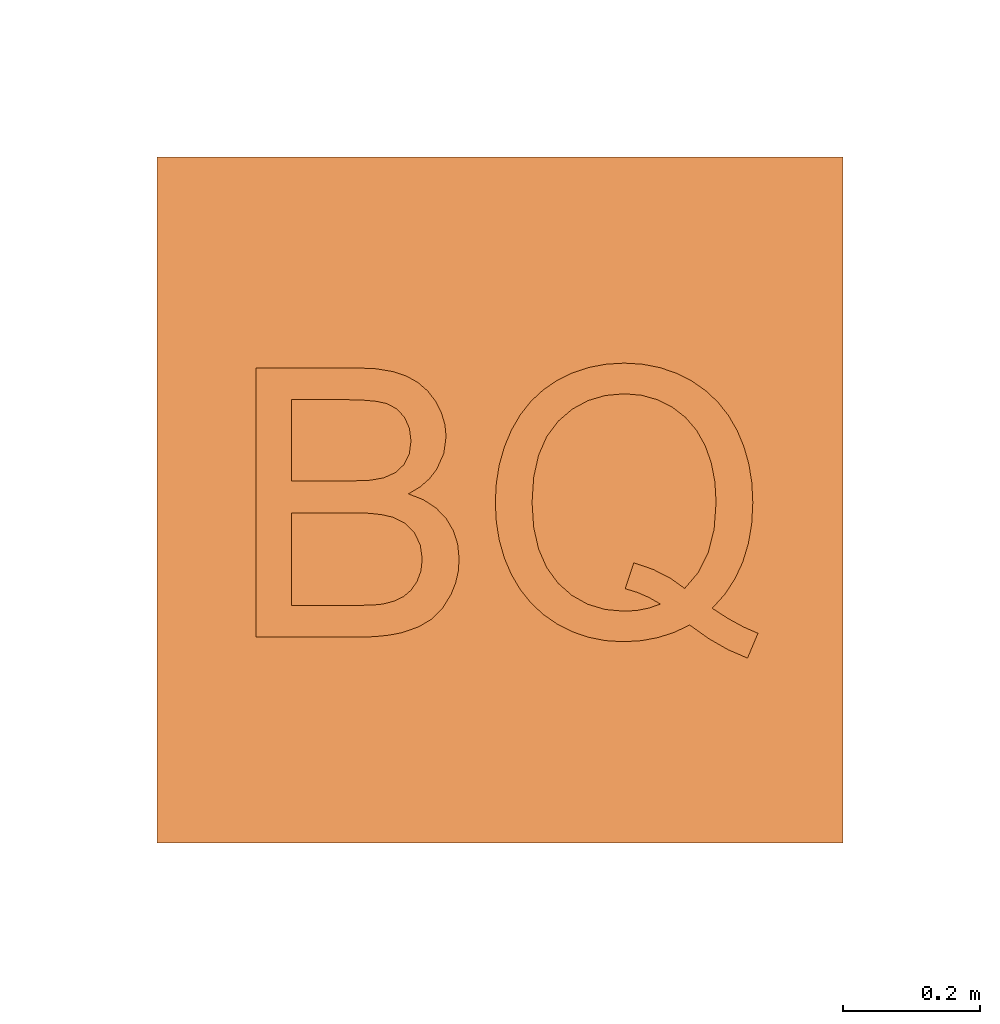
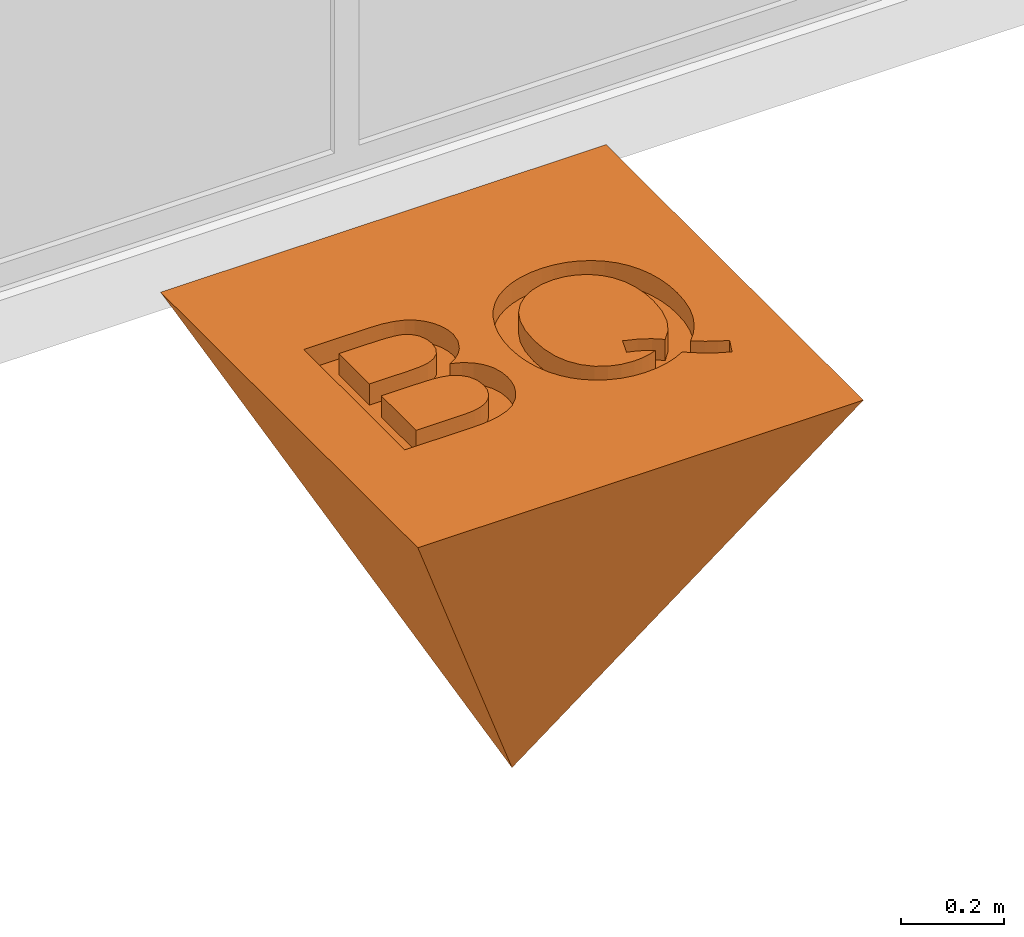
# One storey, part 106 of 109: 1 proxy.
"""IFC2X3 building model written with IfcOpenShell, lengths in millimetres."""

from ifc_helpers import new_model, entity, si_unit, converted_unit, derived_unit, money_unit, direction, frame, origin_with_axes, place, context, subcontext, project, spatial, faceted_brep, material, type_object, element, save


model = new_model("IFC2X3")

# Units and contexts
model_context = context("Model", 3, precision=0.01, world=origin_with_axes(), true_north=direction((0.0, 1.0)))
body_context = subcontext(model_context, "Body", "Model", "MODEL_VIEW")
ifc_project = project(units=[si_unit("LENGTHUNIT", "METRE", prefix="MILLI"), si_unit("AREAUNIT", "SQUARE_METRE"), si_unit("VOLUMEUNIT", "CUBIC_METRE"), converted_unit("PLANEANGLEUNIT", "DEGREE", entity("IfcPlaneAngleMeasure", 0.0174532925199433), si_unit("PLANEANGLEUNIT", "RADIAN"), dimensions=[0, 0, 0, 0, 0, 0, 0]), money_unit("EUR"), converted_unit("TIMEUNIT", "Year", entity("IfcTimeMeasure", 31557600.0), si_unit("TIMEUNIT", "SECOND"), dimensions=[0, 0, 1, 0, 0, 0, 0]), si_unit("MASSUNIT", "GRAM", prefix="KILO"), si_unit("THERMODYNAMICTEMPERATUREUNIT", "DEGREE_CELSIUS"), si_unit("LUMINOUSINTENSITYUNIT", "LUMEN"), si_unit("ENERGYUNIT", "JOULE", prefix="MEGA"), derived_unit("THERMALCONDUCTANCEUNIT", [(si_unit("POWERUNIT", "WATT"), 1), (si_unit("LENGTHUNIT", "METRE"), -1), (si_unit("THERMODYNAMICTEMPERATUREUNIT", "KELVIN"), -1)]), derived_unit("SPECIFICHEATCAPACITYUNIT", [(si_unit("ENERGYUNIT", "JOULE"), 1), (si_unit("MASSUNIT", "GRAM", prefix="KILO"), -1), (si_unit("THERMODYNAMICTEMPERATUREUNIT", "KELVIN"), -1)]), derived_unit("MASSDENSITYUNIT", [(si_unit("MASSUNIT", "GRAM", prefix="KILO"), 1), (si_unit("VOLUMEUNIT", "CUBIC_METRE"), -1)])], contexts=[model_context])

# Site, building, storey
site_placement = place(None, origin_with_axes())
site = spatial("IfcSite", under=ifc_project, at=site_placement, Name="<site naam>", CompositionType="ELEMENT")
building_placement = place(site_placement, origin_with_axes())
building = spatial("IfcBuilding", under=site, at=building_placement, Name="<Naam gebouw>", CompositionType="ELEMENT")
storey_placement = place(building_placement, origin_with_axes())
storey = spatial("IfcBuildingStorey", under=building, at=storey_placement, Name="00 Begane grond", CompositionType="ELEMENT", Elevation=0.0)

# Proxy
ifc_material = material(Name="ALG - ALGEMEEN")
building_element_proxy_type = type_object("IfcBuildingElementProxyType", Name="nulpunt_brique", PredefinedType="USERDEFINED")
proxy_placement = place(storey_placement, frame((7500.000000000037, -499.9999999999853, 0.0), z_axis=(0.0, 0.0, 1.0), x_axis=(1.0, 0.0, 0.0)))
element("IfcBuildingElementProxy", 1, at=proxy_placement, inside=storey, type_object=building_element_proxy_type, material=ifc_material, Name="99_Wasmachine_Lege", ObjectType="Massing", context=body_context, shape_type="Brep", body=[
    faceted_brep([(293.6151133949, 300.0, 950.0000000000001), (143.8829705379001, 300.0, 950.0000000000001), (143.8829705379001, 300.0, 1000.0), (293.6151133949, 300.0, 1000.0), (317.3204705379, 300.7291666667, 950.0000000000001), (338.4365419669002, 302.9166666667, 950.0000000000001), (356.9633276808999, 306.5624999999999, 950.0000000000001), (380.6352026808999, 314.6986607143, 950.0000000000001), (399.9543991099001, 325.9821428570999, 950.0000000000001), (415.7244883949, 341.5513392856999, 950.0000000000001), (428.7490419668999, 362.5446428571, 950.0000000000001), (435.2222562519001, 378.7797619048, 950.0000000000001), (439.1061848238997, 395.8779761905, 950.0000000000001), (440.4008276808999, 413.83928571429, 950.0000000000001), (438.2728514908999, 435.68452380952, 950.0000000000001), (431.8889229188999, 455.50595238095, 950.0000000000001), (421.2490419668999, 473.30357142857, 950.0000000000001), (406.6508276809, 488.4523809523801, 950.0000000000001), (388.3918991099, 500.3273809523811, 950.0000000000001), (366.4722562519, 508.9285714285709, 950.0000000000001), (383.3174943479, 518.9880952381, 950.0000000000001), (397.0674943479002, 530.9523809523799, 950.0000000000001), (407.7222562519, 544.82142857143, 950.0000000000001), (417.9677919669, 567.79017857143, 950.0000000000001), (421.3829705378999, 592.2321428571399, 950.0000000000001), (419.6716610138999, 610.0148809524, 950.0000000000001), (414.5377324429, 627.2916666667, 950.0000000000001), (405.9811848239, 644.0625, 950.0000000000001), (394.4038038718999, 659.1517857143, 950.0000000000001), (380.2073752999, 671.3839285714, 950.0000000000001), (363.3918991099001, 680.7589285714, 950.0000000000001), (343.2877324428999, 687.3809523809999, 950.0000000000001), (319.2252324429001, 691.3541666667, 950.0000000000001), (291.2043991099, 692.6785714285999, 950.0000000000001), (143.8829705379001, 692.6785714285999, 950.0000000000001), (347.6887741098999, 540.06696428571, 950.0000000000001), (330.3115419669, 532.23214285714, 950.0000000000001), (310.4231491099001, 528.81696428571, 950.0000000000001), (280.7579705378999, 527.67857142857, 950.0000000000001), (195.8472562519, 527.67857142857, 950.0000000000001), (195.8472562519, 646.3392857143, 950.0000000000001), (274.3293991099, 646.3392857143, 950.0000000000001), (299.7758276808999, 645.7291666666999, 950.0000000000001), (319.6865419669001, 643.8988095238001, 950.0000000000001), (334.0615419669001, 640.8482142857, 950.0000000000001), (349.4633276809, 633.0133928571, 950.0000000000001), (360.8472562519, 620.4910714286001, 950.0000000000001), (367.8785062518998, 604.453125, 950.0000000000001), (370.2222562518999, 586.07142857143, 950.0000000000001), (367.7110955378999, 567.1875, 950.0000000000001), (360.1776133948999, 551.78571428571, 950.0000000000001), (345.4454705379, 352.5, 950.0000000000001), (328.9722562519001, 348.2142857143, 950.0000000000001), (315.0436848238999, 346.8080357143, 950.0000000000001), (293.6151133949, 346.3392857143, 950.0000000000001), (195.8472562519, 346.3392857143, 950.0000000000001), (195.8472562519, 481.33928571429, 950.0000000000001), (286.6508276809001, 481.33928571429, 950.0000000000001), (309.7014229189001, 480.61011904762, 950.0000000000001), (328.8532086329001, 478.42261904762, 950.0000000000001), (344.1061848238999, 474.77678571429, 950.0000000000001), (361.8852026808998, 465.80357142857, 950.0000000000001), (375.3115419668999, 452.00892857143, 950.0000000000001), (383.7490419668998, 434.36383928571, 950.0000000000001), (386.5615419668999, 413.83928571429, 950.0000000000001), (384.6195776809, 396.1941964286, 950.0000000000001), (378.7936848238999, 380.7589285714, 950.0000000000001), (369.9543991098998, 368.1361607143, 950.0000000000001), (358.9722562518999, 358.9285714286, 950.0000000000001), (143.8829705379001, 692.6785714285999, 1000.0), (0.0, 1000.0, 1000.0), (0.0, 0.0, 1000.0), (999.9999999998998, 0.0, 1000.0), (999.9999999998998, 1000.0, 1000.0), (545.0325241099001, 349.9553571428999, 1000.0), (529.5721446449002, 369.3415178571, 1000.0), (516.6061848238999, 391.3392857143, 1000.0), (506.3522785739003, 415.37946428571, 1000.0), (499.0280598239, 440.89285714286, 1000.0), (494.6335285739, 467.87946428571, 1000.0), (493.1686848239, 496.339285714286, 1000.0), (494.6418991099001, 524.74888392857, 1000.0), (499.0615419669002, 551.85267857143, 1000.0), (506.4276133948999, 577.6506696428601, 1000.0), (516.7401133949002, 602.1428571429, 1000.0), (529.7730375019, 624.5591517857, 1000.0), (545.3003812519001, 644.1294642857, 1000.0), (563.3221446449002, 660.8537946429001, 1000.0), (583.8383276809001, 674.7321428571, 1000.0), (606.2462517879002, 685.6305803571, 1000.0), (629.9432383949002, 693.4151785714, 1000.0), (654.9292875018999, 698.0859375, 1000.0), (681.2043991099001, 699.6428571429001, 1000.0), (707.7222562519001, 698.02734375, 1000.0), (732.9008276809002, 693.1808035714, 1000.0), (756.7401133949, 685.1032366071, 1000.0), (779.2401133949, 673.7946428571, 1000.0), (799.7730375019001, 659.5814732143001, 1000.0), (817.7110955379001, 642.7901785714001, 1000.0), (833.0542875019, 623.4207589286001, 1000.0), (845.8026133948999, 601.4732142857, 1000.0), (855.8221446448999, 577.49162946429, 1000.0), (862.9789526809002, 552.02008928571, 1000.0), (867.2730375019, 525.05859375, 1000.0), (868.7043991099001, 496.607142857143, 1000.0), (867.0674943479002, 465.37202380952, 1000.0), (862.1567800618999, 436.30952380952, 1000.0), (853.9722562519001, 409.41964285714, 1000.0), (842.4841610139, 384.7321428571, 1000.0), (827.6627324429, 362.2767857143, 1000.0), (809.5079705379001, 342.0535714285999, 1000.0), (832.9901133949, 326.9345238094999, 1000.0), (855.2222562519, 314.7916666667, 1000.0), (876.2043991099, 305.6250000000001, 1000.0), (860.9365419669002, 269.4642857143, 1000.0), (832.7520181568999, 281.6071428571, 1000.0), (804.6270181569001, 297.6785714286, 1000.0), (776.5615419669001, 317.6785714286, 1000.0), (754.1619883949, 307.0145089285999, 1000.0), (730.6240419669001, 299.3973214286, 1000.0), (705.9477026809, 294.8270089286, 1000.0), (680.1329705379, 293.3035714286, 1000.0), (654.1006044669, 294.9107142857, 1000.0), (629.3070776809, 299.7321428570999, 1000.0), (605.7523901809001, 307.7678571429, 1000.0), (583.4365419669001, 319.0178571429, 1000.0), (562.9873232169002, 333.1808035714, 1000.0), (291.2043991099, 692.6785714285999, 1000.0), (319.2252324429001, 691.3541666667, 1000.0), (343.2877324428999, 687.3809523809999, 1000.0), (363.3918991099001, 680.7589285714, 1000.0), (380.2073752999, 671.3839285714, 1000.0), (394.4038038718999, 659.1517857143, 1000.0), (405.9811848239, 644.0625, 1000.0), (414.5377324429, 627.2916666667, 1000.0), (419.6716610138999, 610.0148809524, 1000.0), (421.3829705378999, 592.2321428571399, 1000.0), (417.9677919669, 567.79017857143, 1000.0), (407.7222562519, 544.82142857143, 1000.0), (397.0674943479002, 530.9523809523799, 1000.0), (383.3174943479, 518.9880952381, 1000.0), (366.4722562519, 508.9285714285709, 1000.0), (388.3918991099, 500.3273809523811, 1000.0), (406.6508276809, 488.4523809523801, 1000.0), (421.2490419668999, 473.30357142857, 1000.0), (431.8889229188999, 455.50595238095, 1000.0), (438.2728514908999, 435.68452380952, 1000.0), (440.4008276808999, 413.83928571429, 1000.0), (439.1061848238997, 395.8779761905, 1000.0), (435.2222562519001, 378.7797619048, 1000.0), (428.7490419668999, 362.5446428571, 1000.0), (415.7244883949, 341.5513392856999, 1000.0), (399.9543991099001, 325.9821428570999, 1000.0), (380.6352026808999, 314.6986607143, 1000.0), (356.9633276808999, 306.5624999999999, 1000.0), (338.4365419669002, 302.9166666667, 1000.0), (317.3204705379, 300.7291666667, 1000.0), (347.6887741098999, 540.06696428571, 1000.0), (330.3115419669, 532.23214285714, 1000.0), (310.4231491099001, 528.81696428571, 1000.0), (280.7579705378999, 527.67857142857, 1000.0), (195.8472562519, 527.67857142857, 1000.0), (195.8472562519, 646.3392857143, 1000.0), (274.3293991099, 646.3392857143, 1000.0), (299.7758276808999, 645.7291666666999, 1000.0), (319.6865419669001, 643.8988095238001, 1000.0), (334.0615419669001, 640.8482142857, 1000.0), (349.4633276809, 633.0133928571, 1000.0), (360.8472562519, 620.4910714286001, 1000.0), (367.8785062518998, 604.453125, 1000.0), (370.2222562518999, 586.07142857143, 1000.0), (367.7110955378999, 567.1875, 1000.0), (360.1776133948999, 551.78571428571, 1000.0), (345.4454705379, 352.5, 1000.0), (328.9722562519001, 348.2142857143, 1000.0), (315.0436848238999, 346.8080357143, 1000.0), (293.6151133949, 346.3392857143, 1000.0), (195.8472562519, 346.3392857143, 1000.0), (195.8472562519, 481.33928571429, 1000.0), (286.6508276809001, 481.33928571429, 1000.0), (309.7014229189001, 480.61011904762, 1000.0), (328.8532086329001, 478.42261904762, 1000.0), (344.1061848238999, 474.77678571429, 1000.0), (361.8852026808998, 465.80357142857, 1000.0), (375.3115419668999, 452.00892857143, 1000.0), (383.7490419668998, 434.36383928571, 1000.0), (386.5615419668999, 413.83928571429, 1000.0), (384.6195776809, 396.1941964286, 1000.0), (378.7936848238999, 380.7589285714, 1000.0), (369.9543991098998, 368.1361607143, 1000.0), (358.9722562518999, 358.9285714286, 1000.0), (499.9993991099, 500.0, 0.0), (545.0325241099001, 349.9553571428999, 950.0000000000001), (529.5721446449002, 369.3415178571, 950.0000000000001), (516.6061848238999, 391.3392857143, 950.0000000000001), (506.3522785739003, 415.37946428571, 950.0000000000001), (499.0280598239, 440.89285714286, 950.0000000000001), (494.6335285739, 467.87946428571, 950.0000000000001), (493.1686848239, 496.339285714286, 950.0000000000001), (494.6418991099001, 524.74888392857, 950.0000000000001), (499.0615419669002, 551.85267857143, 950.0000000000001), (506.4276133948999, 577.6506696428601, 950.0000000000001), (516.7401133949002, 602.1428571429, 950.0000000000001), (529.7730375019, 624.5591517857, 950.0000000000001), (545.3003812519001, 644.1294642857, 950.0000000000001), (563.3221446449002, 660.8537946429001, 950.0000000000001), (583.8383276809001, 674.7321428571, 950.0000000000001), (606.2462517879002, 685.6305803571, 950.0000000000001), (629.9432383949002, 693.4151785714, 950.0000000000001), (654.9292875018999, 698.0859375, 950.0000000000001), (681.2043991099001, 699.6428571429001, 950.0000000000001), (707.7222562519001, 698.02734375, 950.0000000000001), (732.9008276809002, 693.1808035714, 950.0000000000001), (756.7401133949, 685.1032366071, 950.0000000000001), (779.2401133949, 673.7946428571, 950.0000000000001), (799.7730375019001, 659.5814732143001, 950.0000000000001), (817.7110955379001, 642.7901785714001, 950.0000000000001), (833.0542875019, 623.4207589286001, 950.0000000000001), (845.8026133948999, 601.4732142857, 950.0000000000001), (855.8221446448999, 577.49162946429, 950.0000000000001), (862.9789526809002, 552.02008928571, 950.0000000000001), (867.2730375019, 525.05859375, 950.0000000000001), (868.7043991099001, 496.607142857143, 950.0000000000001), (867.0674943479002, 465.37202380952, 950.0000000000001), (862.1567800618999, 436.30952380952, 950.0000000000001), (853.9722562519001, 409.41964285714, 950.0000000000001), (842.4841610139, 384.7321428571, 950.0000000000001), (827.6627324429, 362.2767857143, 950.0000000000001), (809.5079705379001, 342.0535714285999, 950.0000000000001), (832.9901133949, 326.9345238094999, 950.0000000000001), (855.2222562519, 314.7916666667, 950.0000000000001), (876.2043991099, 305.6250000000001, 950.0000000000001), (860.9365419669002, 269.4642857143, 950.0000000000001), (832.7520181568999, 281.6071428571, 950.0000000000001), (804.6270181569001, 297.6785714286, 950.0000000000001), (776.5615419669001, 317.6785714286, 950.0000000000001), (754.1619883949, 307.0145089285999, 950.0000000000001), (730.6240419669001, 299.3973214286, 950.0000000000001), (705.9477026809, 294.8270089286, 950.0000000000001), (680.1329705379, 293.3035714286, 950.0000000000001), (654.1006044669, 294.9107142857, 950.0000000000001), (629.3070776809, 299.7321428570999, 950.0000000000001), (605.7523901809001, 307.7678571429, 950.0000000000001), (583.4365419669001, 319.0178571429, 950.0000000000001), (562.9873232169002, 333.1808035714, 950.0000000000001), (681.4722562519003, 337.7678571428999, 950.0000000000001), (653.3221446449, 340.3292410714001, 950.0000000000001), (627.8003812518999, 348.0133928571, 950.0000000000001), (604.9069660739, 360.8203125, 950.0000000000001), (584.6418991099, 378.75, 950.0000000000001), (568.0598678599, 401.46763392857, 950.0000000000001), (556.2155598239, 428.63839285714, 950.0000000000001), (549.1089750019, 460.26227678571, 950.0000000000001), (546.7401133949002, 496.339285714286, 950.0000000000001), (549.1340866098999, 533.3956473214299, 950.0000000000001), (556.3160062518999, 565.546875, 950.0000000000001), (568.2858723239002, 592.79296875, 950.0000000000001), (585.0436848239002, 615.1339285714, 950.0000000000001), (605.4343098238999, 632.5362723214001, 950.0000000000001), (628.3026133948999, 644.9665178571, 950.0000000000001), (653.6485955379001, 652.4246651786, 950.0000000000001), (681.4722562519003, 654.9107142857, 950.0000000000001), (706.5168991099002, 652.7232142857, 950.0000000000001), (729.8651133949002, 646.1607142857, 950.0000000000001), (751.5168991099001, 635.2232142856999, 950.0000000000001), (770.6538038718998, 620.3273809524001, 950.0000000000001), (786.4573752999, 601.8898809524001, 950.0000000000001), (798.9276133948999, 579.91071428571, 950.0000000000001), (807.9305895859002, 554.82142857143, 950.0000000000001), (813.3323752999, 527.05357142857, 950.0000000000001), (815.1329705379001, 496.607142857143, 950.0000000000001), (812.2702473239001, 457.31584821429, 950.0000000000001), (803.6820776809, 423.28125, 950.0000000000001), (789.3684616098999, 394.5033482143, 950.0000000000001), (769.3293991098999, 370.9821428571, 950.0000000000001), (748.1091610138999, 386.2202380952, 950.0000000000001), (723.3770181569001, 398.7202380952, 950.0000000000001), (695.1329705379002, 408.48214285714, 950.0000000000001), (682.5436848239, 370.7142857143, 950.0000000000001), (700.2817800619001, 365.2380952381, 950.0000000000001), (717.4246372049, 357.7380952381, 950.0000000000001), (733.9722562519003, 348.2142857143, 950.0000000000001), (717.1865419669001, 342.4107142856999, 950.0000000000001), (699.6865419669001, 338.9285714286, 950.0000000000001), (681.4722562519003, 337.7678571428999, 1000.0), (653.3221446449, 340.3292410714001, 1000.0), (627.8003812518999, 348.0133928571, 1000.0), (604.9069660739, 360.8203125, 1000.0), (584.6418991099, 378.75, 1000.0), (568.0598678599, 401.46763392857, 1000.0), (556.2155598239, 428.63839285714, 1000.0), (549.1089750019, 460.26227678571, 1000.0), (546.7401133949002, 496.339285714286, 1000.0), (549.1340866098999, 533.3956473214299, 1000.0), (556.3160062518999, 565.546875, 1000.0), (568.2858723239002, 592.79296875, 1000.0), (585.0436848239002, 615.1339285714, 1000.0), (605.4343098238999, 632.5362723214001, 1000.0), (628.3026133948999, 644.9665178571, 1000.0), (653.6485955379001, 652.4246651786, 1000.0), (681.4722562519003, 654.9107142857, 1000.0), (706.5168991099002, 652.7232142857, 1000.0), (729.8651133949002, 646.1607142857, 1000.0), (751.5168991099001, 635.2232142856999, 1000.0), (770.6538038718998, 620.3273809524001, 1000.0), (786.4573752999, 601.8898809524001, 1000.0), (798.9276133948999, 579.91071428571, 1000.0), (807.9305895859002, 554.82142857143, 1000.0), (813.3323752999, 527.05357142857, 1000.0), (815.1329705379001, 496.607142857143, 1000.0), (812.2702473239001, 457.31584821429, 1000.0), (803.6820776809, 423.28125, 1000.0), (789.3684616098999, 394.5033482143, 1000.0), (769.3293991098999, 370.9821428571, 1000.0), (748.1091610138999, 386.2202380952, 1000.0), (723.3770181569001, 398.7202380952, 1000.0), (695.1329705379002, 408.48214285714, 1000.0), (682.5436848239, 370.7142857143, 1000.0), (700.2817800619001, 365.2380952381, 1000.0), (717.4246372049, 357.7380952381, 1000.0), (733.9722562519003, 348.2142857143, 1000.0), (717.1865419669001, 342.4107142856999, 1000.0), (699.6865419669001, 338.9285714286, 1000.0)], [[[0, 1, 2, 3]], [[1, 0, 4, 5, 6, 7, 8, 9, 10, 11, 12, 13, 14, 15, 16, 17, 18, 19, 20, 21, 22, 23, 24, 25, 26, 27, 28, 29, 30, 31, 32, 33, 34], [35, 36, 37, 38, 39, 40, 41, 42, 43, 44, 45, 46, 47, 48, 49, 50], [51, 52, 53, 54, 55, 56, 57, 58, 59, 60, 61, 62, 63, 64, 65, 66, 67, 68]], [[2, 1, 34, 69]], [[70, 71, 72, 73], [74, 75, 76, 77, 78, 79, 80, 81, 82, 83, 84, 85, 86, 87, 88, 89, 90, 91, 92, 93, 94, 95, 96, 97, 98, 99, 100, 101, 102, 103, 104, 105, 106, 107, 108, 109, 110, 111, 112, 113, 114, 115, 116, 117, 118, 119, 120, 121, 122, 123, 124, 125, 126], [3, 2, 69, 127, 128, 129, 130, 131, 132, 133, 134, 135, 136, 137, 138, 139, 140, 141, 142, 143, 144, 145, 146, 147, 148, 149, 150, 151, 152, 153, 154, 155, 156]], [[4, 0, 3, 156]], [[5, 4, 156, 155]], [[6, 5, 155, 154]], [[6, 154, 153, 7]], [[8, 7, 153, 152]], [[9, 8, 152, 151]], [[10, 9, 151, 150]], [[11, 10, 150, 149]], [[12, 11, 149, 148]], [[12, 148, 147, 13]], [[13, 147, 146, 14]], [[15, 14, 146, 145]], [[15, 145, 144, 16]], [[17, 16, 144, 143]], [[18, 17, 143, 142]], [[141, 19, 18, 142]], [[19, 141, 140, 20]], [[21, 20, 140, 139]], [[22, 21, 139, 138]], [[23, 22, 138, 137]], [[23, 137, 136, 24]], [[25, 24, 136, 135]], [[134, 26, 25, 135]], [[27, 26, 134, 133]], [[28, 27, 133, 132]], [[29, 28, 132, 131]], [[130, 30, 29, 131]], [[31, 30, 130, 129]], [[32, 31, 129, 128]], [[33, 32, 128, 127]], [[34, 33, 127, 69]], [[36, 35, 157, 158]], [[37, 36, 158, 159]], [[38, 37, 159, 160]], [[39, 38, 160, 161]], [[39, 161, 162, 40]], [[41, 40, 162, 163]], [[42, 41, 163, 164]], [[43, 42, 164, 165]], [[44, 43, 165, 166]], [[167, 45, 44, 166]], [[46, 45, 167, 168]], [[47, 46, 168, 169]], [[48, 47, 169, 170]], [[49, 48, 170, 171]], [[50, 49, 171, 172]], [[35, 50, 172, 157]], [[52, 51, 173, 174]], [[53, 52, 174, 175]], [[54, 53, 175, 176]], [[55, 54, 176, 177]], [[55, 177, 178, 56]], [[57, 56, 178, 179]], [[58, 57, 179, 180]], [[59, 58, 180, 181]], [[60, 59, 181, 182]], [[61, 60, 182, 183]], [[62, 61, 183, 184]], [[62, 184, 185, 63]], [[64, 63, 185, 186]], [[187, 65, 64, 186]], [[188, 66, 65, 187]], [[67, 66, 188, 189]], [[68, 67, 189, 190]], [[51, 68, 190, 173]], [[71, 70, 191]], [[72, 71, 191]], [[72, 191, 73]], [[191, 70, 73]], [[192, 193, 75, 74]], [[193, 194, 76, 75]], [[76, 194, 195, 77]], [[195, 196, 78, 77]], [[196, 197, 79, 78]], [[197, 198, 80, 79]], [[198, 199, 81, 80]], [[199, 200, 82, 81]], [[200, 201, 83, 82]], [[83, 201, 202, 84]], [[202, 203, 85, 84]], [[203, 204, 86, 85]], [[86, 204, 205, 87]], [[205, 206, 88, 87]], [[206, 207, 89, 88]], [[207, 208, 90, 89]], [[208, 209, 91, 90]], [[209, 210, 92, 91]], [[210, 211, 93, 92]], [[93, 211, 212, 94]], [[212, 213, 95, 94]], [[213, 214, 96, 95]], [[214, 215, 97, 96]], [[215, 216, 98, 97]], [[216, 217, 99, 98]], [[218, 100, 99, 217]], [[218, 219, 101, 100]], [[219, 220, 102, 101]], [[220, 221, 103, 102]], [[221, 222, 104, 103]], [[222, 223, 105, 104]], [[223, 224, 106, 105]], [[224, 225, 107, 106]], [[225, 226, 108, 107]], [[226, 227, 109, 108]], [[228, 110, 109, 227]], [[228, 229, 111, 110]], [[229, 230, 112, 111]], [[230, 231, 113, 112]], [[231, 232, 114, 113]], [[232, 233, 115, 114]], [[233, 234, 116, 115]], [[234, 235, 117, 116]], [[235, 236, 118, 117]], [[237, 119, 118, 236]], [[237, 238, 120, 119]], [[238, 239, 121, 120]], [[239, 240, 122, 121]], [[240, 241, 123, 122]], [[241, 242, 124, 123]], [[242, 243, 125, 124]], [[243, 244, 126, 125]], [[126, 244, 192, 74]], [[172, 171, 170, 169, 168, 167, 166, 165, 164, 163, 162, 161, 160, 159, 158, 157]], [[177, 176, 175, 174, 173, 190, 189, 188, 187, 186, 185, 184, 183, 182, 181, 180, 179, 178]], [[193, 192, 244, 243, 242, 241, 240, 239, 238, 237, 236, 235, 234, 233, 232, 231, 230, 229, 228, 227, 226, 225, 224, 223, 222, 221, 220, 219, 218, 217, 216, 215, 214, 213, 212, 211, 210, 209, 208, 207, 206, 205, 204, 203, 202, 201, 200, 199, 198, 197, 196, 195, 194], [245, 246, 247, 248, 249, 250, 251, 252, 253, 254, 255, 256, 257, 258, 259, 260, 261, 262, 263, 264, 265, 266, 267, 268, 269, 270, 271, 272, 273, 274, 275, 276, 277, 278, 279, 280, 281, 282, 283]], [[246, 245, 284, 285]], [[246, 285, 286, 247]], [[248, 247, 286, 287]], [[249, 248, 287, 288]], [[250, 249, 288, 289]], [[251, 250, 289, 290]], [[252, 251, 290, 291]], [[253, 252, 291, 292]], [[254, 253, 292, 293]], [[255, 254, 293, 294]], [[256, 255, 294, 295]], [[257, 256, 295, 296]], [[258, 257, 296, 297]], [[259, 258, 297, 298]], [[259, 298, 299, 260]], [[261, 260, 299, 300]], [[262, 261, 300, 301]], [[302, 263, 262, 301]], [[263, 302, 303, 264]], [[265, 264, 303, 304]], [[266, 265, 304, 305]], [[306, 267, 266, 305]], [[268, 267, 306, 307]], [[269, 268, 307, 308]], [[270, 269, 308, 309]], [[271, 270, 309, 310]], [[272, 271, 310, 311]], [[273, 272, 311, 312]], [[274, 273, 312, 313]], [[275, 274, 313, 314]], [[315, 276, 275, 314]], [[277, 276, 315, 316]], [[317, 278, 277, 316]], [[279, 278, 317, 318]], [[280, 279, 318, 319]], [[280, 319, 320, 281]], [[321, 282, 281, 320]], [[283, 282, 321, 322]], [[245, 283, 322, 284]], [[285, 284, 322, 321, 320, 319, 318, 317, 316, 315, 314, 313, 312, 311, 310, 309, 308, 307, 306, 305, 304, 303, 302, 301, 300, 299, 298, 297, 296, 295, 294, 293, 292, 291, 290, 289, 288, 287, 286]]]),
])

save(model, "model.ifc")
